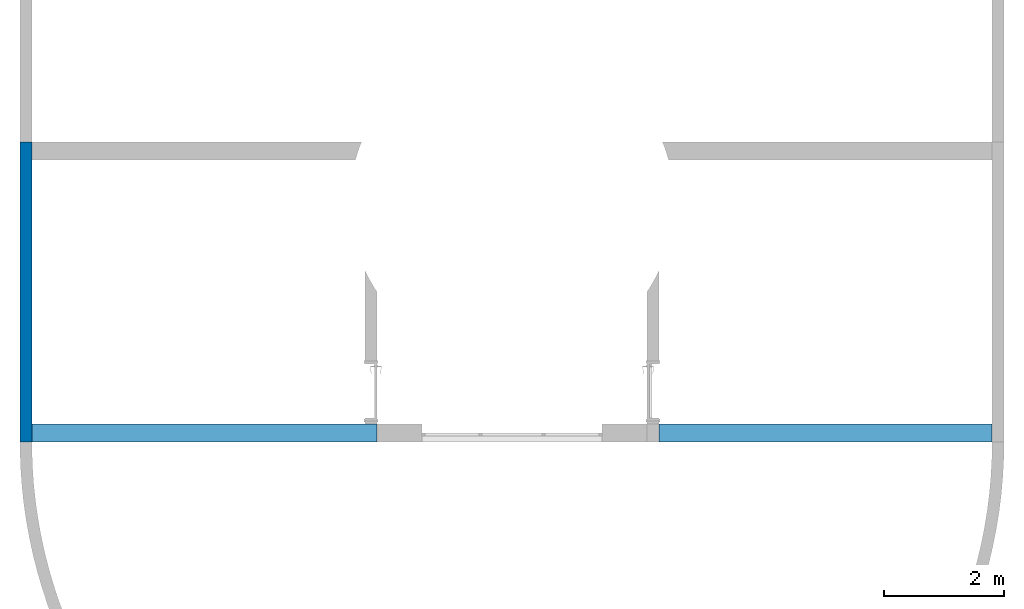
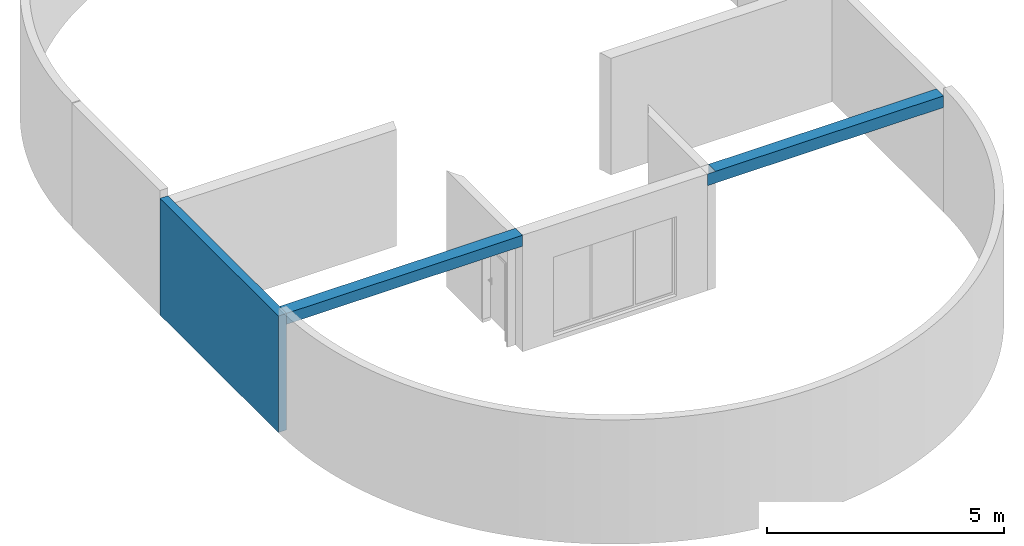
# One storey, part 1 of 5: 2 beams, 1 wall.
"""IFC4 building model written with IfcOpenShell, lengths in millimetres."""

import ifcopenshell
import ifcopenshell.guid

model = None  # the IFC model being written
_history = None  # IfcOwnerHistory: only IFC2X3 demands one
_inside = {}  # id of a spatial element -> (the spatial element, [elements in it])
_under = {}  # id of a project, library or spatial element -> (it, [spatial elements below it])
_declared = {}  # id of a project -> (the project, [libraries it declares])
_typed = {}  # id of a type object -> (the type object, [elements of that type])
_made_of = {}  # id of a material, layer set ... -> (it, [elements and type objects made of it])


def new_model(schema):
    """Start an empty IFC model of exactly this schema.

    Asked for "IFC4X3", IfcOpenShell would pick the latest addendum, in which some entities
    have other attributes; the version numbers below select the first issue.
    IFC2X3 requires an IfcOwnerHistory on every rooted entity: one is made here for all.
    """
    global model, _history
    if schema == "IFC4X3":
        model = ifcopenshell.file(schema_version=(4, 3, 0, 0))
    else:
        model = ifcopenshell.file(schema=schema)
    _inside.clear()
    _under.clear()
    _declared.clear()
    _typed.clear()
    _made_of.clear()
    _history = None
    if model.schema == "IFC2X3":
        org = make("IfcOrganization", Name="unknown")
        user = make(
            "IfcPersonAndOrganization",
            ThePerson=make("IfcPerson", FamilyName="unknown"),
            TheOrganization=org,
        )
        app = make(
            "IfcApplication",
            ApplicationDeveloper=org,
            Version="unknown",
            ApplicationFullName="unknown",
            ApplicationIdentifier="unknown",
        )
        _history = make(
            "IfcOwnerHistory",
            OwningUser=user,
            OwningApplication=app,
            ChangeAction="ADDED",
            CreationDate=0,
        )
    return model


def make(cls, **values):
    """One entity of the class cls with the attributes given. An attribute that is None is left unset."""
    return model.create_entity(
        cls, **{name: value for name, value in values.items() if value is not None}
    )


def entity(cls, *values):
    """Any entity or typed value of the class cls, its attributes in the order of the schema. None: left unset."""
    e = model.create_entity(cls)
    for i, value in enumerate(values):
        if value is not None:
            e[i] = value
    return e


def rooted(cls, **values):
    """An entity with a GlobalId (a new one), such as an element, a storey or a relation."""
    return make(cls, GlobalId=ifcopenshell.guid.new(), OwnerHistory=_history, **values)


def si_unit(unit_type, name, prefix=None):
    """IfcSIUnit, for example si_unit("LENGTHUNIT", "METRE", prefix="MILLI")."""
    return make("IfcSIUnit", UnitType=unit_type, Prefix=prefix, Name=name)


def converted_unit(unit_type, name, factor, base, dimensions=None, offset=None):
    """IfcConversionBasedUnit, such as the inch: factor (a typed value) times the base unit."""
    return make(
        "IfcConversionBasedUnit"
        if offset is None
        else "IfcConversionBasedUnitWithOffset",
        ConversionOffset=offset,
        Dimensions=None
        if dimensions is None
        else entity("IfcDimensionalExponents", *dimensions),
        UnitType=unit_type,
        Name=name,
        ConversionFactor=make(
            "IfcMeasureWithUnit", ValueComponent=factor, UnitComponent=base
        ),
    )


def derived_unit(unit_type, elements):
    """IfcDerivedUnit: a product of units, each with its exponent."""
    return make(
        "IfcDerivedUnit",
        Elements=[
            make("IfcDerivedUnitElement", Unit=unit, Exponent=power)
            for unit, power in elements
        ],
        UnitType=unit_type,
    )


def assignment(units):
    """IfcUnitAssignment: the units of a project."""
    return None if units is None else make("IfcUnitAssignment", Units=units)


def point(xyz):
    """IfcCartesianPoint."""
    return None if xyz is None else make("IfcCartesianPoint", Coordinates=xyz)


def direction(xyz):
    """IfcDirection."""
    return None if xyz is None else make("IfcDirection", DirectionRatios=xyz)


def frame(location, z_axis=None, x_axis=None):
    """IfcAxis2Placement3D, a coordinate frame: its origin and axes. An axis left out is left unset."""
    return make(
        "IfcAxis2Placement3D",
        Location=point(location),
        Axis=direction(z_axis),
        RefDirection=direction(x_axis),
    )


def origin_with_axes():
    """The frame at (0, 0, 0) with the z axis (0, 0, 1) and the x axis (1, 0, 0) written out."""
    return frame((0.0, 0.0, 0.0), z_axis=(0.0, 0.0, 1.0), x_axis=(1.0, 0.0, 0.0))


def place(relative_to, where):
    """IfcLocalPlacement: puts the frame where relative to a parent placement (None: the world)."""
    return make(
        "IfcLocalPlacement", PlacementRelTo=relative_to, RelativePlacement=where
    )


def context(
    kind, dimensions, precision=None, world=None, true_north=None, identifier=None
):
    """IfcGeometricRepresentationContext, for example the 3D "Model" context."""
    return make(
        "IfcGeometricRepresentationContext",
        ContextIdentifier=identifier,
        ContextType=kind,
        CoordinateSpaceDimension=dimensions,
        Precision=precision,
        WorldCoordinateSystem=world,
        TrueNorth=true_north,
    )


def subcontext(parent, identifier, kind, view, scale=None):
    """IfcGeometricRepresentationSubContext, for example "Body" below "Model"."""
    return make(
        "IfcGeometricRepresentationSubContext",
        ContextIdentifier=identifier,
        ContextType=kind,
        ParentContext=parent,
        TargetScale=scale,
        TargetView=view,
    )


def project(units=None, contexts=None):
    """IfcProject with its units and contexts."""
    return rooted(
        "IfcProject",
        Name="project",
        RepresentationContexts=contexts,
        UnitsInContext=assignment(units),
    )


def spatial(cls, under=None, at=None, **own):
    """A site, building, storey or space (cls), placed at a placement, below another one or the project."""
    s = rooted(cls, ObjectPlacement=at, **own)
    if under is not None:
        _under.setdefault(under.id(), (under, []))[1].append(s)
    return s


def point_list(points):
    """IfcCartesianPointList2D or 3D."""
    cls = (
        "IfcCartesianPointList2D" if len(points[0]) == 2 else "IfcCartesianPointList3D"
    )
    return make(cls, CoordList=points)


def polygons(points, faces, closed=None, point_numbers=None):
    """IfcPolygonalFaceSet: a face is its outer loop, then its inner loops; points numbered from 1."""
    made = []
    for loops in faces:
        if len(loops) == 1:
            made.append(make("IfcIndexedPolygonalFace", CoordIndex=loops[0]))
        else:
            made.append(
                make(
                    "IfcIndexedPolygonalFaceWithVoids",
                    CoordIndex=loops[0],
                    InnerCoordIndices=loops[1:],
                )
            )
    return make(
        "IfcPolygonalFaceSet",
        Coordinates=point_list(points),
        Closed=closed,
        Faces=made,
        PnIndex=point_numbers,
    )


def shape(context_of_items, identifier, shape_type, items):
    """IfcShapeRepresentation: the items that make up one representation, for example the "Body"."""
    return make(
        "IfcShapeRepresentation",
        ContextOfItems=context_of_items,
        RepresentationIdentifier=identifier,
        RepresentationType=shape_type,
        Items=items,
    )


def material(Name=None, Category=None):
    """IfcMaterial."""
    return make("IfcMaterial", Name=Name, Category=Category)


def constituent(of_material, Name=None, Category=None, fraction=None):
    """IfcMaterialConstituent: one of the materials an element consists of."""
    return make(
        "IfcMaterialConstituent",
        Name=Name,
        Material=of_material,
        Fraction=fraction,
        Category=Category,
    )


def constituent_set(constituents=None, Name=None):
    """IfcMaterialConstituentSet."""
    return make(
        "IfcMaterialConstituentSet", Name=Name, MaterialConstituents=constituents
    )


def made_of(thing, what):
    """Note that an element or type object is made of a material, layer set ...; save() writes the relation."""
    if what is not None:
        _made_of.setdefault(what.id(), (what, []))[1].append(thing)
    return thing


def type_object(cls, material=None, **own):
    """A type object (cls), such as IfcWallType, which elements share."""
    return made_of(rooted(cls, **own), material)


def element(
    cls,
    number,
    at=None,
    inside=None,
    cuts=None,
    type_object=None,
    material=None,
    context=None,
    identifier="Body",
    shape_type=None,
    held_by="IfcProductDefinitionShape",
    body=None,
    shapes=None,
    **own,
):
    """One element of the class cls, such as IfcWall. Its Tag is "e" and its number.

    at: its placement. inside: the storey or other place that contains it. cuts: it is an
    opening in that element (IfcRelVoidsElement). A single representation is given by context,
    identifier, shape_type and body (its items); several are given by shapes. held_by: the class
    of the entity that holds the representations. save() writes the other relations.
    """
    e = rooted(cls, Tag="e%d" % number, ObjectPlacement=at, **own)
    if body is not None:
        shapes = [shape(context, identifier, shape_type, body)]
    if shapes is not None:
        e.Representation = make(held_by, Representations=shapes)
    if inside is not None:
        _inside.setdefault(inside.id(), (inside, []))[1].append(e)
    if cuts is not None:
        rooted(
            "IfcRelVoidsElement", RelatingBuildingElement=cuts, RelatedOpeningElement=e
        )
    if type_object is not None:
        _typed.setdefault(type_object.id(), (type_object, []))[1].append(e)
    return made_of(e, material)


def aggregate(whole, parts):
    """IfcRelAggregates: a whole, such as a stair, and the parts it consists of."""
    return rooted("IfcRelAggregates", RelatingObject=whole, RelatedObjects=parts)


def save(model, path):
    """Write the relations noted so far, then the file.

    IfcRelAggregates (storeys below a building ...), IfcRelContainedInSpatialStructure (elements
    in a storey), IfcRelDefinesByType, IfcRelAssociatesMaterial and IfcRelDeclares: one each for
    every whole, place, type object, material and project.
    """
    for whole, parts in _under.values():
        aggregate(whole, parts)
    for where, things in _inside.values():
        rooted(
            "IfcRelContainedInSpatialStructure",
            RelatedElements=things,
            RelatingStructure=where,
        )
    for kind, things in _typed.values():
        rooted("IfcRelDefinesByType", RelatedObjects=things, RelatingType=kind)
    for what, things in _made_of.values():
        rooted("IfcRelAssociatesMaterial", RelatedObjects=things, RelatingMaterial=what)
    for by, libraries in _declared.values():
        rooted("IfcRelDeclares", RelatingContext=by, RelatedDefinitions=libraries)
    model.write(path)


model = new_model("IFC4")

# Units and contexts
model_context = context("Model", 3, precision=0.01, world=origin_with_axes(), true_north=direction((0.0, 1.0)))
body_context = subcontext(model_context, "Body", "Model", "MODEL_VIEW")
ifc_project = project(units=[si_unit("LENGTHUNIT", "METRE", prefix="MILLI"), si_unit("AREAUNIT", "SQUARE_METRE"), si_unit("VOLUMEUNIT", "CUBIC_METRE"), converted_unit("PLANEANGLEUNIT", "DEGREE", entity("IfcPlaneAngleMeasure", 0.0174532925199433), si_unit("PLANEANGLEUNIT", "RADIAN"), dimensions=[0, 0, 0, 0, 0, 0, 0]), converted_unit("TIMEUNIT", "Year", entity("IfcTimeMeasure", 31557600.0), si_unit("TIMEUNIT", "SECOND"), dimensions=[0, 0, 1, 0, 0, 0, 0]), si_unit("MASSUNIT", "GRAM", prefix="KILO"), si_unit("THERMODYNAMICTEMPERATUREUNIT", "DEGREE_CELSIUS"), si_unit("LUMINOUSINTENSITYUNIT", "LUMEN"), si_unit("ENERGYUNIT", "JOULE", prefix="MEGA"), derived_unit("THERMALCONDUCTANCEUNIT", [(si_unit("POWERUNIT", "WATT"), 1), (si_unit("LENGTHUNIT", "METRE"), -1), (si_unit("THERMODYNAMICTEMPERATUREUNIT", "KELVIN"), -1)]), derived_unit("SPECIFICHEATCAPACITYUNIT", [(si_unit("ENERGYUNIT", "JOULE"), 1), (si_unit("MASSUNIT", "GRAM", prefix="KILO"), -1), (si_unit("THERMODYNAMICTEMPERATUREUNIT", "KELVIN"), -1)]), derived_unit("MASSDENSITYUNIT", [(si_unit("MASSUNIT", "GRAM", prefix="KILO"), 1), (si_unit("VOLUMEUNIT", "CUBIC_METRE"), -1)])], contexts=[model_context])

# Site, building, storey
site_placement = place(None, origin_with_axes())
site = spatial("IfcSite", under=ifc_project, at=site_placement, Name="Exteriér", CompositionType="ELEMENT")
building_placement = place(site_placement, origin_with_axes())
building = spatial("IfcBuilding", under=site, at=building_placement, Name="Univerzitní lezecké centrum", CompositionType="ELEMENT")
storey_placement = place(building_placement, frame((0.0, 0.0, 3200.0), z_axis=(0.0, 0.0, 1.0), x_axis=(1.0, 0.0, 0.0)))
storey = spatial("IfcBuildingStorey", under=building, at=storey_placement, Name="2.NP", CompositionType="ELEMENT", Elevation=3200.0)

# Beams
ifc_material_1 = material(Name="Beton vyztužený")
beam_type_1 = type_object("IfcBeamType", Name="Beton vyztužený 300 x 300", PredefinedType="BEAM")
beam_1_placement = place(storey_placement, frame((10649.85164943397, -150.1634365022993, 2880.0), z_axis=(0.0, 0.0, 1.0), x_axis=(3.873719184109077e-09, 1.0, 0.0)))
element("IfcBeam", 1, at=beam_1_placement, inside=storey, type_object=beam_type_1, material=ifc_material_1, Name="St04", PredefinedType="BEAM", context=body_context, shape_type="Tessellation", body=[
    polygons([(-149.0425686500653, 5949.900487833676, 0.0), (-150.0, 5949.900487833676, 0.0), (-149.9999999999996, 200.0021737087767, 0.0), (-149.8365642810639, 199.9999999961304, 0.0), (149.9999999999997, 200.0000011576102, 0.0), (150.0, 5749.964339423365, 0.0), (-149.0474577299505, 5749.971652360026, 0.0), (-149.0425686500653, 5949.900487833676, -299.9999999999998), (-150.0, 5949.900487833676, -299.9999999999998), (-149.9999999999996, 200.0021737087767, -299.9999999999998), (-149.8365642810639, 199.9999999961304, -299.9999999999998), (149.9999999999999, 200.0000011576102, -299.9999999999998), (149.9999999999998, 5749.964339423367, -299.9999999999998), (-149.0474577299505, 5749.971652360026, -299.9999999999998)], [[[1, 2, 3, 4, 5, 6, 7]], [[1, 8, 9, 2]], [[2, 9, 10, 3]], [[3, 10, 11, 4]], [[12, 5, 4, 11]], [[12, 13, 6, 5]], [[7, 6, 13, 14]], [[1, 7, 14, 8]], [[13, 12, 11, 10, 9, 8, 14]]], closed=True),
])
beam_type_2 = type_object("IfcBeamType", Name="Beton vyztužený 300 x 280", PredefinedType="BEAM")
beam_2_placement = place(storey_placement, frame((-5750.148351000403, -150.1634077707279, 2880.000099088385), z_axis=(0.0, 0.0, 1.0), x_axis=(-9.551878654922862e-10, -1.0, 0.0)))
element("IfcBeam", 2, at=beam_2_placement, inside=storey, type_object=beam_type_2, material=ifc_material_1, Name="St04", PredefinedType="BEAM", context=body_context, shape_type="Tessellation", body=[
    polygons([(-149.9999999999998, 199.9999997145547, -9.908838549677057e-05), (-149.9999999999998, 199.9999997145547, -280.0000990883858), (150.0, 200.0000000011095, -280.0000990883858), (150.0000000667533, 200.0000000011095, -9.908838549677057e-05), (-150.0000000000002, 5749.929547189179, -9.908838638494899e-05), (-150.0000000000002, 5749.929547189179, -280.0000990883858), (-149.9999932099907, 5949.878514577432, -280.0000990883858), (149.9999999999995, 5949.942342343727, -280.0000990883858), (-149.9574521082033, 5749.929547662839, -280.0000990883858), (149.9999999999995, 5949.942342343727, 0.0), (-149.9574521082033, 5749.929547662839, -9.908838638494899e-05), (-149.9999932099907, 5949.878514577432, -9.908838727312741e-05)], [[[1, 2, 3, 4]], [[5, 6, 2, 1]], [[7, 8, 3, 2, 6, 9]], [[8, 10, 4, 3]], [[11, 5, 1, 4, 10, 12]], [[6, 5, 11, 9]], [[10, 8, 7, 12]], [[12, 7, 9, 11]]], closed=True),
])

# Wall
ifc_material_2 = material(Name="Beton vyztužený - vnější svislé kce")
ifc_constituent = constituent(ifc_material_2, Name="Beton vyztužený - vnější svislé kce")
ifc_constituent_set = constituent_set(constituents=[ifc_constituent], Name="!Vnější betonová stěna 200 mm")
wall_type = type_object("IfcWallType", Name="!Vnější betonová stěna 200 mm 200", PredefinedType="NOTDEFINED")
wall_placement = place(storey_placement, frame((-5550.148351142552, 4700.000000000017, -120.000000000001), z_axis=(0.0, 0.0, 1.0), x_axis=(3.337631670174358e-10, -1.0, 0.0)))
element("IfcWall", 3, at=wall_placement, inside=storey, type_object=wall_type, material=ifc_constituent_set, Name="St01", PredefinedType="NOTDEFINED", context=body_context, shape_type="Tessellation", body=[
    polygons([(0.0, 0.0, 0.0), (5000.163408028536, -1.668889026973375e-06, 0.0), (5000.163407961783, -200.0000016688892, 0.0), (-6.675282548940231e-08, -200.0000000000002, 0.0), (0.0, 0.0, 3000.0), (5000.163408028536, -1.668888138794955e-06, 3000.0), (5000.163407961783, -200.0000016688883, 3000.0), (-6.675282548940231e-08, -200.0000000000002, 3000.0)], [[[1, 2, 3, 4]], [[5, 6, 2, 1]], [[3, 2, 6, 7]], [[4, 3, 7, 8]], [[5, 1, 4, 8]], [[8, 7, 6, 5]]], closed=True),
])

save(model, "model.ifc")
